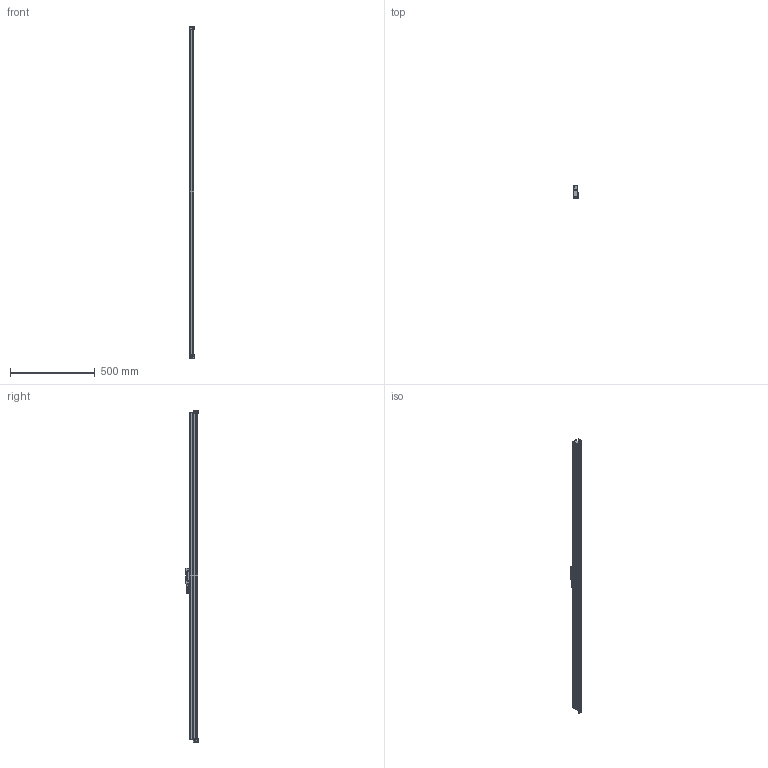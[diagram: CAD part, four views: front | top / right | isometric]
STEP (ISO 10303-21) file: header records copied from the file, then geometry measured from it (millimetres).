
FILE_DESCRIPTION (( 'STEP AP214' ), '1' );
FILE_NAME ('MLC310x1800.STEP', '2021-05-08T11:54:49', ( '' ), ( '' ), 'SwSTEP 2.0', 'SolidWorks 2014', '' );
FILE_SCHEMA (( 'AUTOMOTIVE_DESIGN' ));
Length unit declared in the file: millimetre
Products named in the file (1): MLC310x1800
Bounding box: 27 x 75.15 x 1964 mm (x, y, z)
Surface area: 331579.3 mm2 (no closed solid volume)
Topology: 0 solids, 21 shells, 350 faces, 1257 edges, 912 vertices
Faces by surface type: plane 143, cylinder 120, cone 65, bspline 18, torus 4
Entity records: 26842 total; most frequent: CARTESIAN_POINT 12549, DIRECTION 2151, ORIENTED_EDGE 1882, EDGE_CURVE 1257, VERTEX_POINT 912, AXIS2_PLACEMENT_3D 744, VECTOR 663, LINE 663
